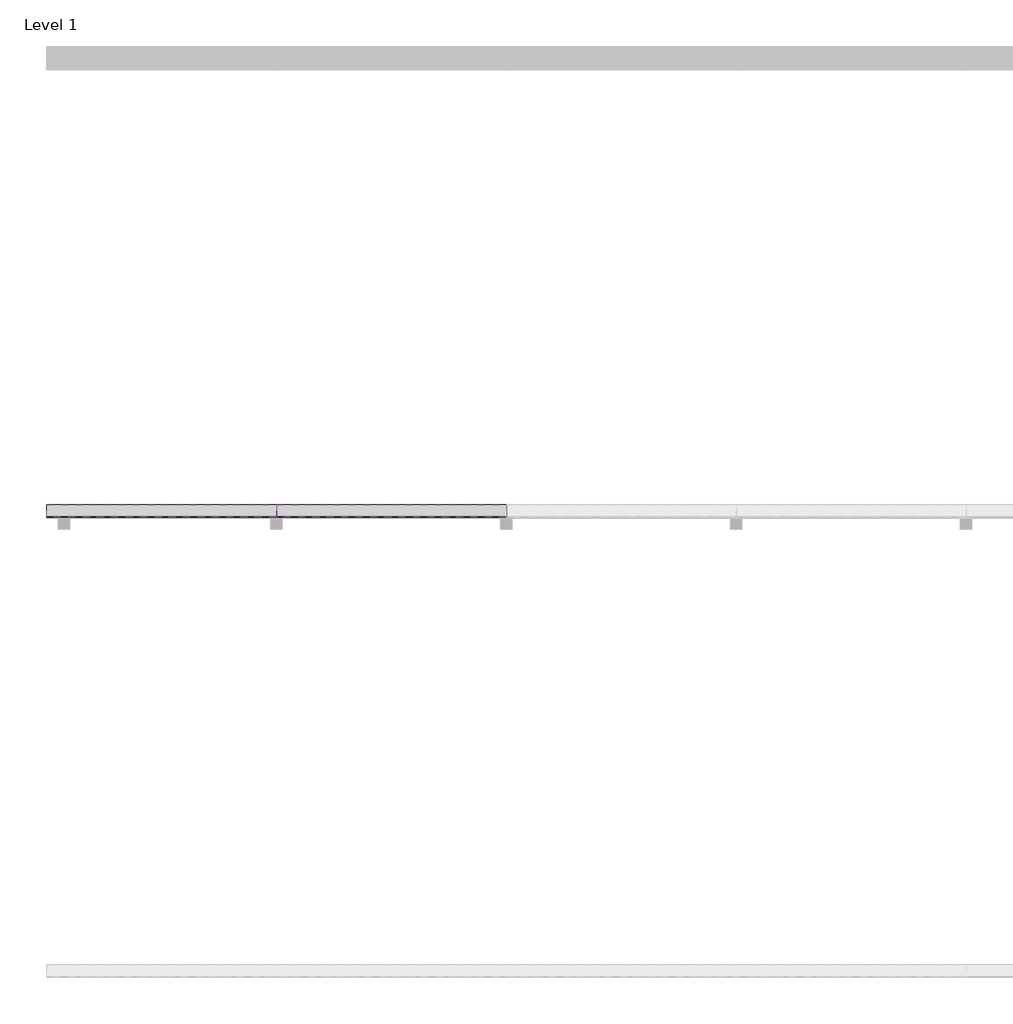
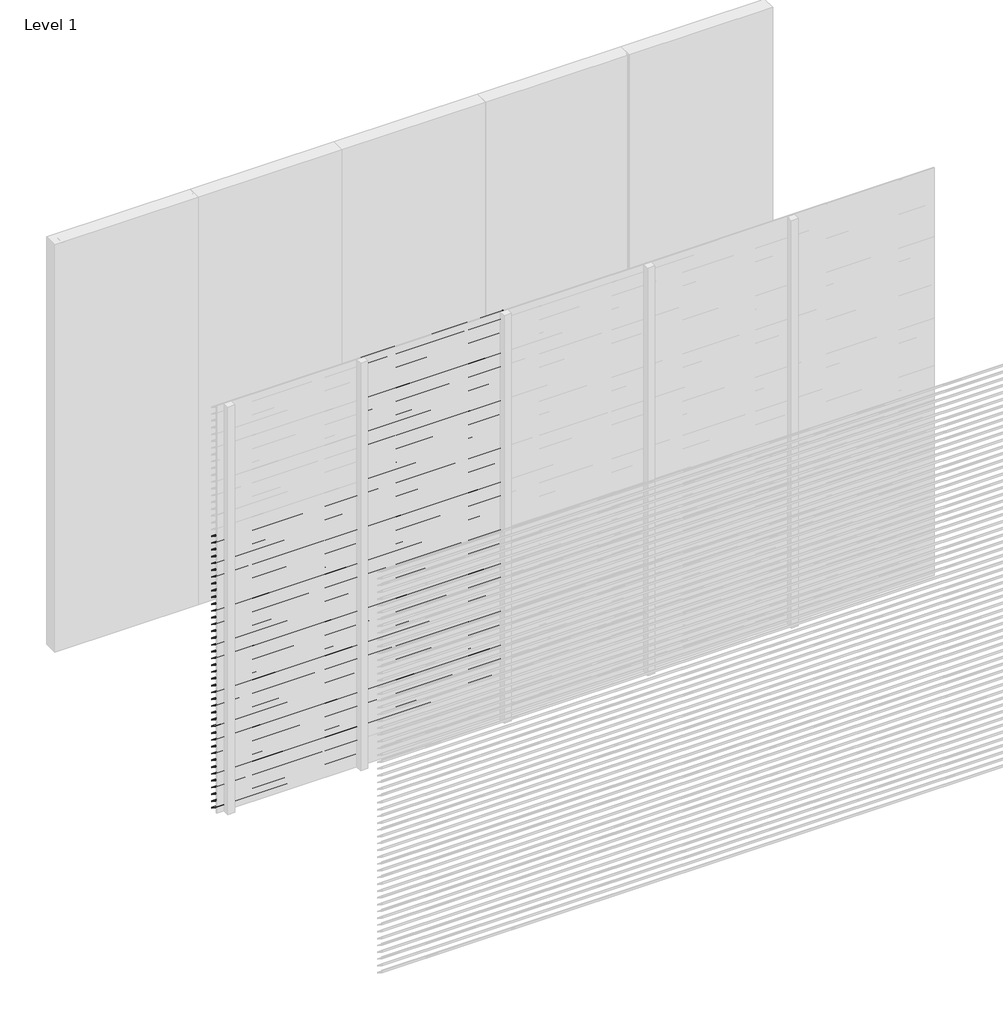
# One storey, part 7 of 18: 97 proxies.
"""IFC4 building model written with IfcOpenShell, lengths in millimetres."""

from ifc_helpers import new_model, si_unit, frame, origin, place, context, project, spatial, polyline, outline, extrude, element, save

model = new_model("IFC4")

# Units and contexts
model_context = context("Model", 3, world=origin())
ifc_project = project(units=[si_unit("LENGTHUNIT", "METRE", prefix="MILLI")], contexts=[model_context])

# Site, building, storey
site = spatial("IfcSite", under=ifc_project)
building = spatial("IfcBuilding", under=site)
storey = spatial("IfcBuildingStorey", under=building, Name="Level 1", Elevation=0.0)

# Proxies
placement = place(None, origin())
element("IfcBuildingElementProxy", 1, Name="Wall Sweeps", at=placement, inside=storey, context=model_context, shape_type="SweptSolid", body=[
    extrude(outline(polyline([(-11995.0, 2050.0), (-11995.0, 2041.0744429), (-11943.0, 2006.0), (-11943.0, 2000.0), (-11997.0, 2036.4234599), (-11997.0, 2050.0), (-11995.0, 2050.0)])), frame((0.0, 0.0, 0.0), z_axis=(1.0, 0.0, 0.0), x_axis=(0.0, 1.0, 0.0)), (0.0, 0.0, 1.0), 1000.0),
])
element("IfcBuildingElementProxy", 2, Name="Wall Sweeps", at=placement, inside=storey, context=model_context, shape_type="SweptSolid", body=[
    extrude(outline(polyline([(-11995.0, 2000.0), (-11995.0, 1991.0744429), (-11943.0, 1956.0), (-11943.0, 1950.0), (-11997.0, 1986.4234599), (-11997.0, 2000.0), (-11995.0, 2000.0)])), frame((0.0, 0.0, 0.0), z_axis=(1.0, 0.0, 0.0), x_axis=(0.0, 1.0, 0.0)), (0.0, 0.0, 1.0), 1000.0),
])
element("IfcBuildingElementProxy", 3, Name="Wall Sweeps", at=placement, inside=storey, context=model_context, shape_type="SweptSolid", body=[
    extrude(outline(polyline([(-11995.0, 1950.0), (-11995.0, 1941.0744429), (-11943.0, 1906.0), (-11943.0, 1900.0), (-11997.0, 1936.4234599), (-11997.0, 1950.0), (-11995.0, 1950.0)])), frame((0.0, 0.0, 0.0), z_axis=(1.0, 0.0, 0.0), x_axis=(0.0, 1.0, 0.0)), (0.0, 0.0, 1.0), 1000.0),
])
element("IfcBuildingElementProxy", 4, Name="Wall Sweeps", at=placement, inside=storey, context=model_context, shape_type="SweptSolid", body=[
    extrude(outline(polyline([(-11995.0, 1900.0), (-11995.0, 1891.0744429), (-11943.0, 1856.0), (-11943.0, 1850.0), (-11997.0, 1886.4234599), (-11997.0, 1900.0), (-11995.0, 1900.0)])), frame((0.0, 0.0, 0.0), z_axis=(1.0, 0.0, 0.0), x_axis=(0.0, 1.0, 0.0)), (0.0, 0.0, 1.0), 1000.0),
])
element("IfcBuildingElementProxy", 5, Name="Wall Sweeps", at=placement, inside=storey, context=model_context, shape_type="SweptSolid", body=[
    extrude(outline(polyline([(-11995.0, 1850.0), (-11995.0, 1841.0744429), (-11943.0, 1806.0), (-11943.0, 1800.0), (-11997.0, 1836.4234599), (-11997.0, 1850.0), (-11995.0, 1850.0)])), frame((0.0, 0.0, 0.0), z_axis=(1.0, 0.0, 0.0), x_axis=(0.0, 1.0, 0.0)), (0.0, 0.0, 1.0), 1000.0),
])
element("IfcBuildingElementProxy", 6, Name="Wall Sweeps", at=placement, inside=storey, context=model_context, shape_type="SweptSolid", body=[
    extrude(outline(polyline([(-11995.0, 1800.0), (-11995.0, 1791.0744429), (-11943.0, 1756.0), (-11943.0, 1750.0), (-11997.0, 1786.4234599), (-11997.0, 1800.0), (-11995.0, 1800.0)])), frame((0.0, 0.0, 0.0), z_axis=(1.0, 0.0, 0.0), x_axis=(0.0, 1.0, 0.0)), (0.0, 0.0, 1.0), 1000.0),
])
element("IfcBuildingElementProxy", 7, Name="Wall Sweeps", at=placement, inside=storey, context=model_context, shape_type="SweptSolid", body=[
    extrude(outline(polyline([(-11995.0, 1750.0), (-11995.0, 1741.0744429), (-11943.0, 1706.0), (-11943.0, 1700.0), (-11997.0, 1736.4234599), (-11997.0, 1750.0), (-11995.0, 1750.0)])), frame((0.0, 0.0, 0.0), z_axis=(1.0, 0.0, 0.0), x_axis=(0.0, 1.0, 0.0)), (0.0, 0.0, 1.0), 1000.0),
])
element("IfcBuildingElementProxy", 8, Name="Wall Sweeps", at=placement, inside=storey, context=model_context, shape_type="SweptSolid", body=[
    extrude(outline(polyline([(-11995.0, 1700.0), (-11995.0, 1691.0744429), (-11943.0, 1656.0), (-11943.0, 1650.0), (-11997.0, 1686.4234599), (-11997.0, 1700.0), (-11995.0, 1700.0)])), frame((0.0, 0.0, 0.0), z_axis=(1.0, 0.0, 0.0), x_axis=(0.0, 1.0, 0.0)), (0.0, 0.0, 1.0), 1000.0),
])
element("IfcBuildingElementProxy", 9, Name="Wall Sweeps", at=placement, inside=storey, context=model_context, shape_type="SweptSolid", body=[
    extrude(outline(polyline([(-11995.0, 1650.0), (-11995.0, 1641.0744429), (-11943.0, 1606.0), (-11943.0, 1600.0), (-11997.0, 1636.4234599), (-11997.0, 1650.0), (-11995.0, 1650.0)])), frame((0.0, 0.0, 0.0), z_axis=(1.0, 0.0, 0.0), x_axis=(0.0, 1.0, 0.0)), (0.0, 0.0, 1.0), 1000.0),
])
element("IfcBuildingElementProxy", 10, Name="Wall Sweeps", at=placement, inside=storey, context=model_context, shape_type="SweptSolid", body=[
    extrude(outline(polyline([(-11995.0, 1600.0), (-11995.0, 1591.0744429), (-11943.0, 1556.0), (-11943.0, 1550.0), (-11997.0, 1586.4234599), (-11997.0, 1600.0), (-11995.0, 1600.0)])), frame((0.0, 0.0, 0.0), z_axis=(1.0, 0.0, 0.0), x_axis=(0.0, 1.0, 0.0)), (0.0, 0.0, 1.0), 1000.0),
])
element("IfcBuildingElementProxy", 11, Name="Wall Sweeps", at=placement, inside=storey, context=model_context, shape_type="SweptSolid", body=[
    extrude(outline(polyline([(-11995.0, 1550.0), (-11995.0, 1541.0744429), (-11943.0, 1506.0), (-11943.0, 1500.0), (-11997.0, 1536.4234599), (-11997.0, 1550.0), (-11995.0, 1550.0)])), frame((0.0, 0.0, 0.0), z_axis=(1.0, 0.0, 0.0), x_axis=(0.0, 1.0, 0.0)), (0.0, 0.0, 1.0), 1000.0),
])
element("IfcBuildingElementProxy", 12, Name="Wall Sweeps", at=placement, inside=storey, context=model_context, shape_type="SweptSolid", body=[
    extrude(outline(polyline([(-11995.0, 1500.0), (-11995.0, 1491.0744429), (-11943.0, 1456.0), (-11943.0, 1450.0), (-11997.0, 1486.4234599), (-11997.0, 1500.0), (-11995.0, 1500.0)])), frame((0.0, 0.0, 0.0), z_axis=(1.0, 0.0, 0.0), x_axis=(0.0, 1.0, 0.0)), (0.0, 0.0, 1.0), 1000.0),
])
element("IfcBuildingElementProxy", 13, Name="Wall Sweeps", at=placement, inside=storey, context=model_context, shape_type="SweptSolid", body=[
    extrude(outline(polyline([(-11995.0, 1450.0), (-11995.0, 1441.0744429), (-11943.0, 1406.0), (-11943.0, 1400.0), (-11997.0, 1436.4234599), (-11997.0, 1450.0), (-11995.0, 1450.0)])), frame((0.0, 0.0, 0.0), z_axis=(1.0, 0.0, 0.0), x_axis=(0.0, 1.0, 0.0)), (0.0, 0.0, 1.0), 1000.0),
])
element("IfcBuildingElementProxy", 14, Name="Wall Sweeps", at=placement, inside=storey, context=model_context, shape_type="SweptSolid", body=[
    extrude(outline(polyline([(-11995.0, 1400.0), (-11995.0, 1391.0744429), (-11943.0, 1356.0), (-11943.0, 1350.0), (-11997.0, 1386.4234599), (-11997.0, 1400.0), (-11995.0, 1400.0)])), frame((0.0, 0.0, 0.0), z_axis=(1.0, 0.0, 0.0), x_axis=(0.0, 1.0, 0.0)), (0.0, 0.0, 1.0), 1000.0),
])
element("IfcBuildingElementProxy", 15, Name="Wall Sweeps", at=placement, inside=storey, context=model_context, shape_type="SweptSolid", body=[
    extrude(outline(polyline([(-11995.0, 1350.0), (-11995.0, 1341.0744429), (-11943.0, 1306.0), (-11943.0, 1300.0), (-11997.0, 1336.4234599), (-11997.0, 1350.0), (-11995.0, 1350.0)])), frame((0.0, 0.0, 0.0), z_axis=(1.0, 0.0, 0.0), x_axis=(0.0, 1.0, 0.0)), (0.0, 0.0, 1.0), 1000.0),
])
element("IfcBuildingElementProxy", 16, Name="Wall Sweeps", at=placement, inside=storey, context=model_context, shape_type="SweptSolid", body=[
    extrude(outline(polyline([(-11995.0, 1300.0), (-11995.0, 1291.0744429), (-11943.0, 1256.0), (-11943.0, 1250.0), (-11997.0, 1286.4234599), (-11997.0, 1300.0), (-11995.0, 1300.0)])), frame((0.0, 0.0, 0.0), z_axis=(1.0, 0.0, 0.0), x_axis=(0.0, 1.0, 0.0)), (0.0, 0.0, 1.0), 1000.0),
])
element("IfcBuildingElementProxy", 17, Name="Wall Sweeps", at=placement, inside=storey, context=model_context, shape_type="SweptSolid", body=[
    extrude(outline(polyline([(-11995.0, 1250.0), (-11995.0, 1241.0744429), (-11943.0, 1206.0), (-11943.0, 1200.0), (-11997.0, 1236.4234599), (-11997.0, 1250.0), (-11995.0, 1250.0)])), frame((0.0, 0.0, 0.0), z_axis=(1.0, 0.0, 0.0), x_axis=(0.0, 1.0, 0.0)), (0.0, 0.0, 1.0), 1000.0),
])
element("IfcBuildingElementProxy", 18, Name="Wall Sweeps", at=placement, inside=storey, context=model_context, shape_type="SweptSolid", body=[
    extrude(outline(polyline([(-11995.0, 1200.0), (-11995.0, 1191.0744429), (-11943.0, 1156.0), (-11943.0, 1150.0), (-11997.0, 1186.4234599), (-11997.0, 1200.0), (-11995.0, 1200.0)])), frame((0.0, 0.0, 0.0), z_axis=(1.0, 0.0, 0.0), x_axis=(0.0, 1.0, 0.0)), (0.0, 0.0, 1.0), 1000.0),
])
element("IfcBuildingElementProxy", 19, Name="Wall Sweeps", at=placement, inside=storey, context=model_context, shape_type="SweptSolid", body=[
    extrude(outline(polyline([(-11995.0, 1150.0), (-11995.0, 1141.0744429), (-11943.0, 1106.0), (-11943.0, 1100.0), (-11997.0, 1136.4234599), (-11997.0, 1150.0), (-11995.0, 1150.0)])), frame((0.0, 0.0, 0.0), z_axis=(1.0, 0.0, 0.0), x_axis=(0.0, 1.0, 0.0)), (0.0, 0.0, 1.0), 1000.0),
])
element("IfcBuildingElementProxy", 20, Name="Wall Sweeps", at=placement, inside=storey, context=model_context, shape_type="SweptSolid", body=[
    extrude(outline(polyline([(-11995.0, 1100.0), (-11995.0, 1091.0744429), (-11943.0, 1056.0), (-11943.0, 1050.0), (-11997.0, 1086.4234599), (-11997.0, 1100.0), (-11995.0, 1100.0)])), frame((0.0, 0.0, 0.0), z_axis=(1.0, 0.0, 0.0), x_axis=(0.0, 1.0, 0.0)), (0.0, 0.0, 1.0), 1000.0),
])
element("IfcBuildingElementProxy", 21, Name="Wall Sweeps", at=placement, inside=storey, context=model_context, shape_type="SweptSolid", body=[
    extrude(outline(polyline([(-11995.0, 1050.0), (-11995.0, 1041.0744429), (-11943.0, 1006.0), (-11943.0, 1000.0), (-11997.0, 1036.4234599), (-11997.0, 1050.0), (-11995.0, 1050.0)])), frame((0.0, 0.0, 0.0), z_axis=(1.0, 0.0, 0.0), x_axis=(0.0, 1.0, 0.0)), (0.0, 0.0, 1.0), 1000.0),
])
element("IfcBuildingElementProxy", 22, Name="Wall Sweeps", at=placement, inside=storey, context=model_context, shape_type="SweptSolid", body=[
    extrude(outline(polyline([(-11995.0, 1000.0), (-11995.0, 991.0744429), (-11943.0, 956.0), (-11943.0, 950.0), (-11997.0, 986.4234599), (-11997.0, 1000.0), (-11995.0, 1000.0)])), frame((0.0, 0.0, 0.0), z_axis=(1.0, 0.0, 0.0), x_axis=(0.0, 1.0, 0.0)), (0.0, 0.0, 1.0), 1000.0),
])
element("IfcBuildingElementProxy", 23, Name="Wall Sweeps", at=placement, inside=storey, context=model_context, shape_type="SweptSolid", body=[
    extrude(outline(polyline([(-11995.0, 950.0), (-11995.0, 941.0744429), (-11943.0, 906.0), (-11943.0, 900.0), (-11997.0, 936.4234599), (-11997.0, 950.0), (-11995.0, 950.0)])), frame((0.0, 0.0, 0.0), z_axis=(1.0, 0.0, 0.0), x_axis=(0.0, 1.0, 0.0)), (0.0, 0.0, 1.0), 1000.0),
])
element("IfcBuildingElementProxy", 24, Name="Wall Sweeps", at=placement, inside=storey, context=model_context, shape_type="SweptSolid", body=[
    extrude(outline(polyline([(-11995.0, 900.0), (-11995.0, 891.0744429), (-11943.0, 856.0), (-11943.0, 850.0), (-11997.0, 886.4234599), (-11997.0, 900.0), (-11995.0, 900.0)])), frame((0.0, 0.0, 0.0), z_axis=(1.0, 0.0, 0.0), x_axis=(0.0, 1.0, 0.0)), (0.0, 0.0, 1.0), 1000.0),
])
element("IfcBuildingElementProxy", 25, Name="Wall Sweeps", at=placement, inside=storey, context=model_context, shape_type="SweptSolid", body=[
    extrude(outline(polyline([(-11995.0, 850.0), (-11995.0, 841.0744429), (-11943.0, 806.0), (-11943.0, 800.0), (-11997.0, 836.4234599), (-11997.0, 850.0), (-11995.0, 850.0)])), frame((0.0, 0.0, 0.0), z_axis=(1.0, 0.0, 0.0), x_axis=(0.0, 1.0, 0.0)), (0.0, 0.0, 1.0), 1000.0),
])
element("IfcBuildingElementProxy", 26, Name="Wall Sweeps", at=placement, inside=storey, context=model_context, shape_type="SweptSolid", body=[
    extrude(outline(polyline([(-11995.0, 800.0), (-11995.0, 791.0744429), (-11943.0, 756.0), (-11943.0, 750.0), (-11997.0, 786.4234599), (-11997.0, 800.0), (-11995.0, 800.0)])), frame((0.0, 0.0, 0.0), z_axis=(1.0, 0.0, 0.0), x_axis=(0.0, 1.0, 0.0)), (0.0, 0.0, 1.0), 1000.0),
])
element("IfcBuildingElementProxy", 27, Name="Wall Sweeps", at=placement, inside=storey, context=model_context, shape_type="SweptSolid", body=[
    extrude(outline(polyline([(-11995.0, 750.0), (-11995.0, 741.0744429), (-11943.0, 706.0), (-11943.0, 700.0), (-11997.0, 736.4234599), (-11997.0, 750.0), (-11995.0, 750.0)])), frame((0.0, 0.0, 0.0), z_axis=(1.0, 0.0, 0.0), x_axis=(0.0, 1.0, 0.0)), (0.0, 0.0, 1.0), 1000.0),
])
element("IfcBuildingElementProxy", 28, Name="Wall Sweeps", at=placement, inside=storey, context=model_context, shape_type="SweptSolid", body=[
    extrude(outline(polyline([(-11995.0, 700.0), (-11995.0, 691.0744429), (-11943.0, 656.0), (-11943.0, 650.0), (-11997.0, 686.4234599), (-11997.0, 700.0), (-11995.0, 700.0)])), frame((0.0, 0.0, 0.0), z_axis=(1.0, 0.0, 0.0), x_axis=(0.0, 1.0, 0.0)), (0.0, 0.0, 1.0), 1000.0),
])
element("IfcBuildingElementProxy", 29, Name="Wall Sweeps", at=placement, inside=storey, context=model_context, shape_type="SweptSolid", body=[
    extrude(outline(polyline([(-11995.0, 650.0), (-11995.0, 641.0744429), (-11943.0, 606.0), (-11943.0, 600.0), (-11997.0, 636.4234599), (-11997.0, 650.0), (-11995.0, 650.0)])), frame((0.0, 0.0, 0.0), z_axis=(1.0, 0.0, 0.0), x_axis=(0.0, 1.0, 0.0)), (0.0, 0.0, 1.0), 1000.0),
])
element("IfcBuildingElementProxy", 30, Name="Wall Sweeps", at=placement, inside=storey, context=model_context, shape_type="SweptSolid", body=[
    extrude(outline(polyline([(-11995.0, 600.0), (-11995.0, 591.0744429), (-11943.0, 556.0), (-11943.0, 550.0), (-11997.0, 586.4234599), (-11997.0, 600.0), (-11995.0, 600.0)])), frame((0.0, 0.0, 0.0), z_axis=(1.0, 0.0, 0.0), x_axis=(0.0, 1.0, 0.0)), (0.0, 0.0, 1.0), 1000.0),
])
element("IfcBuildingElementProxy", 31, Name="Wall Sweeps", at=placement, inside=storey, context=model_context, shape_type="SweptSolid", body=[
    extrude(outline(polyline([(-11995.0, 550.0), (-11995.0, 541.0744429), (-11943.0, 506.0), (-11943.0, 500.0), (-11997.0, 536.4234599), (-11997.0, 550.0), (-11995.0, 550.0)])), frame((0.0, 0.0, 0.0), z_axis=(1.0, 0.0, 0.0), x_axis=(0.0, 1.0, 0.0)), (0.0, 0.0, 1.0), 1000.0),
])
element("IfcBuildingElementProxy", 32, Name="Wall Sweeps", at=placement, inside=storey, context=model_context, shape_type="SweptSolid", body=[
    extrude(outline(polyline([(-11995.0, 500.0), (-11995.0, 491.0744429), (-11943.0, 456.0), (-11943.0, 450.0), (-11997.0, 486.4234599), (-11997.0, 500.0), (-11995.0, 500.0)])), frame((0.0, 0.0, 0.0), z_axis=(1.0, 0.0, 0.0), x_axis=(0.0, 1.0, 0.0)), (0.0, 0.0, 1.0), 1000.0),
])
element("IfcBuildingElementProxy", 33, Name="Wall Sweeps", at=placement, inside=storey, context=model_context, shape_type="SweptSolid", body=[
    extrude(outline(polyline([(-11995.0, 450.0), (-11995.0, 441.0744429), (-11943.0, 406.0), (-11943.0, 400.0), (-11997.0, 436.4234599), (-11997.0, 450.0), (-11995.0, 450.0)])), frame((0.0, 0.0, 0.0), z_axis=(1.0, 0.0, 0.0), x_axis=(0.0, 1.0, 0.0)), (0.0, 0.0, 1.0), 1000.0),
])
element("IfcBuildingElementProxy", 34, Name="Wall Sweeps", at=placement, inside=storey, context=model_context, shape_type="SweptSolid", body=[
    extrude(outline(polyline([(-11995.0, 400.0), (-11995.0, 391.0744429), (-11943.0, 356.0), (-11943.0, 350.0), (-11997.0, 386.4234599), (-11997.0, 400.0), (-11995.0, 400.0)])), frame((0.0, 0.0, 0.0), z_axis=(1.0, 0.0, 0.0), x_axis=(0.0, 1.0, 0.0)), (0.0, 0.0, 1.0), 1000.0),
])
element("IfcBuildingElementProxy", 35, Name="Wall Sweeps", at=placement, inside=storey, context=model_context, shape_type="SweptSolid", body=[
    extrude(outline(polyline([(-11995.0, 350.0), (-11995.0, 341.0744429), (-11943.0, 306.0), (-11943.0, 300.0), (-11997.0, 336.4234599), (-11997.0, 350.0), (-11995.0, 350.0)])), frame((0.0, 0.0, 0.0), z_axis=(1.0, 0.0, 0.0), x_axis=(0.0, 1.0, 0.0)), (0.0, 0.0, 1.0), 1000.0),
])
element("IfcBuildingElementProxy", 36, Name="Wall Sweeps", at=placement, inside=storey, context=model_context, shape_type="SweptSolid", body=[
    extrude(outline(polyline([(-11995.0, 300.0), (-11995.0, 291.0744429), (-11943.0, 256.0), (-11943.0, 250.0), (-11997.0, 286.4234599), (-11997.0, 300.0), (-11995.0, 300.0)])), frame((0.0, 0.0, 0.0), z_axis=(1.0, 0.0, 0.0), x_axis=(0.0, 1.0, 0.0)), (0.0, 0.0, 1.0), 1000.0),
])
element("IfcBuildingElementProxy", 37, Name="Wall Sweeps", at=placement, inside=storey, context=model_context, shape_type="SweptSolid", body=[
    extrude(outline(polyline([(-11995.0, 250.0), (-11995.0, 241.0744429), (-11943.0, 206.0), (-11943.0, 200.0), (-11997.0, 236.4234599), (-11997.0, 250.0), (-11995.0, 250.0)])), frame((0.0, 0.0, 0.0), z_axis=(1.0, 0.0, 0.0), x_axis=(0.0, 1.0, 0.0)), (0.0, 0.0, 1.0), 1000.0),
])
element("IfcBuildingElementProxy", 38, Name="Wall Sweeps", at=placement, inside=storey, context=model_context, shape_type="SweptSolid", body=[
    extrude(outline(polyline([(-11995.0, 200.0), (-11995.0, 191.0744429), (-11943.0, 156.0), (-11943.0, 150.0), (-11997.0, 186.4234599), (-11997.0, 200.0), (-11995.0, 200.0)])), frame((0.0, 0.0, 0.0), z_axis=(1.0, 0.0, 0.0), x_axis=(0.0, 1.0, 0.0)), (0.0, 0.0, 1.0), 1000.0),
])
element("IfcBuildingElementProxy", 39, Name="Wall Sweeps", at=placement, inside=storey, context=model_context, shape_type="SweptSolid", body=[
    extrude(outline(polyline([(-11995.0, 150.0), (-11995.0, 141.0744429), (-11943.0, 106.0), (-11943.0, 100.0), (-11997.0, 136.4234599), (-11997.0, 150.0), (-11995.0, 150.0)])), frame((0.0, 0.0, 0.0), z_axis=(1.0, 0.0, 0.0), x_axis=(0.0, 1.0, 0.0)), (0.0, 0.0, 1.0), 1000.0),
])
element("IfcBuildingElementProxy", 40, Name="Wall Sweeps", at=placement, inside=storey, context=model_context, shape_type="SweptSolid", body=[
    extrude(outline(polyline([(-11995.0, 100.0), (-11995.0, 91.0744429), (-11943.0, 56.0), (-11943.0, 50.0), (-11997.0, 86.4234599), (-11997.0, 100.0), (-11995.0, 100.0)])), frame((0.0, 0.0, 0.0), z_axis=(1.0, 0.0, 0.0), x_axis=(0.0, 1.0, 0.0)), (0.0, 0.0, 1.0), 1000.0),
])
element("IfcBuildingElementProxy", 41, Name="Wall Sweeps", at=placement, inside=storey, context=model_context, shape_type="SweptSolid", body=[
    extrude(outline(polyline([(-11995.0, 50.0), (-11995.0, 41.0744429), (-11943.0, 6.0), (-11943.0, 0.0), (-11997.0, 36.4234599), (-11997.0, 50.0), (-11995.0, 50.0)])), frame((0.0, 0.0, 0.0), z_axis=(1.0, 0.0, 0.0), x_axis=(0.0, 1.0, 0.0)), (0.0, 0.0, 1.0), 1000.0),
])
element("IfcBuildingElementProxy", 42, Name="Wall Sweeps", at=placement, inside=storey, context=model_context, shape_type="SweptSolid", body=[
    extrude(outline(polyline([(-11995.0, 3000.0), (-11995.0, 2991.0744429), (-11943.0, 2956.0), (-11943.0, 2950.0), (-11997.0, 2986.4234599), (-11997.0, 3000.0), (-11995.0, 3000.0)])), frame((1000.0, 0.0, 0.0), z_axis=(1.0, 0.0, 0.0), x_axis=(0.0, 1.0, 0.0)), (0.0, 0.0, 1.0), 1000.0),
])
element("IfcBuildingElementProxy", 43, Name="Wall Sweeps", at=placement, inside=storey, context=model_context, shape_type="SweptSolid", body=[
    extrude(outline(polyline([(-11995.0, 2950.0), (-11995.0, 2941.0744429), (-11943.0, 2906.0), (-11943.0, 2900.0), (-11997.0, 2936.4234599), (-11997.0, 2950.0), (-11995.0, 2950.0)])), frame((1000.0, 0.0, 0.0), z_axis=(1.0, 0.0, 0.0), x_axis=(0.0, 1.0, 0.0)), (0.0, 0.0, 1.0), 1000.0),
])
element("IfcBuildingElementProxy", 44, Name="Wall Sweeps", at=placement, inside=storey, context=model_context, shape_type="SweptSolid", body=[
    extrude(outline(polyline([(-11995.0, 2900.0), (-11995.0, 2891.0744429), (-11943.0, 2856.0), (-11943.0, 2850.0), (-11997.0, 2886.4234599), (-11997.0, 2900.0), (-11995.0, 2900.0)])), frame((1000.0, 0.0, 0.0), z_axis=(1.0, 0.0, 0.0), x_axis=(0.0, 1.0, 0.0)), (0.0, 0.0, 1.0), 1000.0),
])
element("IfcBuildingElementProxy", 45, Name="Wall Sweeps", at=placement, inside=storey, context=model_context, shape_type="SweptSolid", body=[
    extrude(outline(polyline([(-11995.0, 2850.0), (-11995.0, 2841.0744429), (-11943.0, 2806.0), (-11943.0, 2800.0), (-11997.0, 2836.4234599), (-11997.0, 2850.0), (-11995.0, 2850.0)])), frame((1000.0, 0.0, 0.0), z_axis=(1.0, 0.0, 0.0), x_axis=(0.0, 1.0, 0.0)), (0.0, 0.0, 1.0), 1000.0),
])
element("IfcBuildingElementProxy", 46, Name="Wall Sweeps", at=placement, inside=storey, context=model_context, shape_type="SweptSolid", body=[
    extrude(outline(polyline([(-11995.0, 2800.0), (-11995.0, 2791.0744429), (-11943.0, 2756.0), (-11943.0, 2750.0), (-11997.0, 2786.4234599), (-11997.0, 2800.0), (-11995.0, 2800.0)])), frame((1000.0, 0.0, 0.0), z_axis=(1.0, 0.0, 0.0), x_axis=(0.0, 1.0, 0.0)), (0.0, 0.0, 1.0), 1000.0),
])
element("IfcBuildingElementProxy", 47, Name="Wall Sweeps", at=placement, inside=storey, context=model_context, shape_type="SweptSolid", body=[
    extrude(outline(polyline([(-11995.0, 2750.0), (-11995.0, 2741.0744429), (-11943.0, 2706.0), (-11943.0, 2700.0), (-11997.0, 2736.4234599), (-11997.0, 2750.0), (-11995.0, 2750.0)])), frame((1000.0, 0.0, 0.0), z_axis=(1.0, 0.0, 0.0), x_axis=(0.0, 1.0, 0.0)), (0.0, 0.0, 1.0), 1000.0),
])
element("IfcBuildingElementProxy", 48, Name="Wall Sweeps", at=placement, inside=storey, context=model_context, shape_type="SweptSolid", body=[
    extrude(outline(polyline([(-11995.0, 2700.0), (-11995.0, 2691.0744429), (-11943.0, 2656.0), (-11943.0, 2650.0), (-11997.0, 2686.4234599), (-11997.0, 2700.0), (-11995.0, 2700.0)])), frame((1000.0, 0.0, 0.0), z_axis=(1.0, 0.0, 0.0), x_axis=(0.0, 1.0, 0.0)), (0.0, 0.0, 1.0), 1000.0),
])
element("IfcBuildingElementProxy", 49, Name="Wall Sweeps", at=placement, inside=storey, context=model_context, shape_type="SweptSolid", body=[
    extrude(outline(polyline([(-11995.0, 2650.0), (-11995.0, 2641.0744429), (-11943.0, 2606.0), (-11943.0, 2600.0), (-11997.0, 2636.4234599), (-11997.0, 2650.0), (-11995.0, 2650.0)])), frame((1000.0, 0.0, 0.0), z_axis=(1.0, 0.0, 0.0), x_axis=(0.0, 1.0, 0.0)), (0.0, 0.0, 1.0), 1000.0),
])
element("IfcBuildingElementProxy", 50, Name="Wall Sweeps", at=placement, inside=storey, context=model_context, shape_type="SweptSolid", body=[
    extrude(outline(polyline([(-11995.0, 2600.0), (-11995.0, 2591.0744429), (-11943.0, 2556.0), (-11943.0, 2550.0), (-11997.0, 2586.4234599), (-11997.0, 2600.0), (-11995.0, 2600.0)])), frame((1000.0, 0.0, 0.0), z_axis=(1.0, 0.0, 0.0), x_axis=(0.0, 1.0, 0.0)), (0.0, 0.0, 1.0), 1000.0),
])
element("IfcBuildingElementProxy", 51, Name="Wall Sweeps", at=placement, inside=storey, context=model_context, shape_type="SweptSolid", body=[
    extrude(outline(polyline([(-11995.0, 2550.0), (-11995.0, 2541.0744429), (-11943.0, 2506.0), (-11943.0, 2500.0), (-11997.0, 2536.4234599), (-11997.0, 2550.0), (-11995.0, 2550.0)])), frame((1000.0, 0.0, 0.0), z_axis=(1.0, 0.0, 0.0), x_axis=(0.0, 1.0, 0.0)), (0.0, 0.0, 1.0), 1000.0),
])
element("IfcBuildingElementProxy", 52, Name="Wall Sweeps", at=placement, inside=storey, context=model_context, shape_type="SweptSolid", body=[
    extrude(outline(polyline([(-11995.0, 2500.0), (-11995.0, 2491.0744429), (-11943.0, 2456.0), (-11943.0, 2450.0), (-11997.0, 2486.4234599), (-11997.0, 2500.0), (-11995.0, 2500.0)])), frame((1000.0, 0.0, 0.0), z_axis=(1.0, 0.0, 0.0), x_axis=(0.0, 1.0, 0.0)), (0.0, 0.0, 1.0), 1000.0),
])
element("IfcBuildingElementProxy", 53, Name="Wall Sweeps", at=placement, inside=storey, context=model_context, shape_type="SweptSolid", body=[
    extrude(outline(polyline([(-11995.0, 2450.0), (-11995.0, 2441.0744429), (-11943.0, 2406.0), (-11943.0, 2400.0), (-11997.0, 2436.4234599), (-11997.0, 2450.0), (-11995.0, 2450.0)])), frame((1000.0, 0.0, 0.0), z_axis=(1.0, 0.0, 0.0), x_axis=(0.0, 1.0, 0.0)), (0.0, 0.0, 1.0), 1000.0),
])
element("IfcBuildingElementProxy", 54, Name="Wall Sweeps", at=placement, inside=storey, context=model_context, shape_type="SweptSolid", body=[
    extrude(outline(polyline([(-11995.0, 2400.0), (-11995.0, 2391.0744429), (-11943.0, 2356.0), (-11943.0, 2350.0), (-11997.0, 2386.4234599), (-11997.0, 2400.0), (-11995.0, 2400.0)])), frame((1000.0, 0.0, 0.0), z_axis=(1.0, 0.0, 0.0), x_axis=(0.0, 1.0, 0.0)), (0.0, 0.0, 1.0), 1000.0),
])
element("IfcBuildingElementProxy", 55, Name="Wall Sweeps", at=placement, inside=storey, context=model_context, shape_type="SweptSolid", body=[
    extrude(outline(polyline([(-11995.0, 2350.0), (-11995.0, 2341.0744429), (-11943.0, 2306.0), (-11943.0, 2300.0), (-11997.0, 2336.4234599), (-11997.0, 2350.0), (-11995.0, 2350.0)])), frame((1000.0, 0.0, 0.0), z_axis=(1.0, 0.0, 0.0), x_axis=(0.0, 1.0, 0.0)), (0.0, 0.0, 1.0), 1000.0),
])
element("IfcBuildingElementProxy", 56, Name="Wall Sweeps", at=placement, inside=storey, context=model_context, shape_type="SweptSolid", body=[
    extrude(outline(polyline([(-11995.0, 2300.0), (-11995.0, 2291.0744429), (-11943.0, 2256.0), (-11943.0, 2250.0), (-11997.0, 2286.4234599), (-11997.0, 2300.0), (-11995.0, 2300.0)])), frame((1000.0, 0.0, 0.0), z_axis=(1.0, 0.0, 0.0), x_axis=(0.0, 1.0, 0.0)), (0.0, 0.0, 1.0), 1000.0),
])
element("IfcBuildingElementProxy", 57, Name="Wall Sweeps", at=placement, inside=storey, context=model_context, shape_type="SweptSolid", body=[
    extrude(outline(polyline([(-11995.0, 2250.0), (-11995.0, 2241.0744429), (-11943.0, 2206.0), (-11943.0, 2200.0), (-11997.0, 2236.4234599), (-11997.0, 2250.0), (-11995.0, 2250.0)])), frame((1000.0, 0.0, 0.0), z_axis=(1.0, 0.0, 0.0), x_axis=(0.0, 1.0, 0.0)), (0.0, 0.0, 1.0), 1000.0),
])
element("IfcBuildingElementProxy", 58, Name="Wall Sweeps", at=placement, inside=storey, context=model_context, shape_type="SweptSolid", body=[
    extrude(outline(polyline([(-11995.0, 2200.0), (-11995.0, 2191.0744429), (-11943.0, 2156.0), (-11943.0, 2150.0), (-11997.0, 2186.4234599), (-11997.0, 2200.0), (-11995.0, 2200.0)])), frame((1000.0, 0.0, 0.0), z_axis=(1.0, 0.0, 0.0), x_axis=(0.0, 1.0, 0.0)), (0.0, 0.0, 1.0), 1000.0),
])
element("IfcBuildingElementProxy", 59, Name="Wall Sweeps", at=placement, inside=storey, context=model_context, shape_type="SweptSolid", body=[
    extrude(outline(polyline([(-11995.0, 2150.0), (-11995.0, 2141.0744429), (-11943.0, 2106.0), (-11943.0, 2100.0), (-11997.0, 2136.4234599), (-11997.0, 2150.0), (-11995.0, 2150.0)])), frame((1000.0, 0.0, 0.0), z_axis=(1.0, 0.0, 0.0), x_axis=(0.0, 1.0, 0.0)), (0.0, 0.0, 1.0), 1000.0),
])
element("IfcBuildingElementProxy", 60, Name="Wall Sweeps", at=placement, inside=storey, context=model_context, shape_type="SweptSolid", body=[
    extrude(outline(polyline([(-11995.0, 2100.0), (-11995.0, 2091.0744429), (-11943.0, 2056.0), (-11943.0, 2050.0), (-11997.0, 2086.4234599), (-11997.0, 2100.0), (-11995.0, 2100.0)])), frame((1000.0, 0.0, 0.0), z_axis=(1.0, 0.0, 0.0), x_axis=(0.0, 1.0, 0.0)), (0.0, 0.0, 1.0), 1000.0),
])
element("IfcBuildingElementProxy", 61, Name="Wall Sweeps", at=placement, inside=storey, context=model_context, shape_type="SweptSolid", body=[
    extrude(outline(polyline([(-11995.0, 2050.0), (-11995.0, 2041.0744429), (-11943.0, 2006.0), (-11943.0, 2000.0), (-11997.0, 2036.4234599), (-11997.0, 2050.0), (-11995.0, 2050.0)])), frame((1000.0, 0.0, 0.0), z_axis=(1.0, 0.0, 0.0), x_axis=(0.0, 1.0, 0.0)), (0.0, 0.0, 1.0), 1000.0),
])
element("IfcBuildingElementProxy", 62, Name="Wall Sweeps", at=placement, inside=storey, context=model_context, shape_type="SweptSolid", body=[
    extrude(outline(polyline([(-11995.0, 2000.0), (-11995.0, 1991.0744429), (-11943.0, 1956.0), (-11943.0, 1950.0), (-11997.0, 1986.4234599), (-11997.0, 2000.0), (-11995.0, 2000.0)])), frame((1000.0, 0.0, 0.0), z_axis=(1.0, 0.0, 0.0), x_axis=(0.0, 1.0, 0.0)), (0.0, 0.0, 1.0), 1000.0),
])
element("IfcBuildingElementProxy", 63, Name="Wall Sweeps", at=placement, inside=storey, context=model_context, shape_type="SweptSolid", body=[
    extrude(outline(polyline([(-11995.0, 1950.0), (-11995.0, 1941.0744429), (-11943.0, 1906.0), (-11943.0, 1900.0), (-11997.0, 1936.4234599), (-11997.0, 1950.0), (-11995.0, 1950.0)])), frame((1000.0, 0.0, 0.0), z_axis=(1.0, 0.0, 0.0), x_axis=(0.0, 1.0, 0.0)), (0.0, 0.0, 1.0), 1000.0),
])
element("IfcBuildingElementProxy", 64, Name="Wall Sweeps", at=placement, inside=storey, context=model_context, shape_type="SweptSolid", body=[
    extrude(outline(polyline([(-11995.0, 1900.0), (-11995.0, 1891.0744429), (-11943.0, 1856.0), (-11943.0, 1850.0), (-11997.0, 1886.4234599), (-11997.0, 1900.0), (-11995.0, 1900.0)])), frame((1000.0, 0.0, 0.0), z_axis=(1.0, 0.0, 0.0), x_axis=(0.0, 1.0, 0.0)), (0.0, 0.0, 1.0), 1000.0),
])
element("IfcBuildingElementProxy", 65, Name="Wall Sweeps", at=placement, inside=storey, context=model_context, shape_type="SweptSolid", body=[
    extrude(outline(polyline([(-11995.0, 1850.0), (-11995.0, 1841.0744429), (-11943.0, 1806.0), (-11943.0, 1800.0), (-11997.0, 1836.4234599), (-11997.0, 1850.0), (-11995.0, 1850.0)])), frame((1000.0, 0.0, 0.0), z_axis=(1.0, 0.0, 0.0), x_axis=(0.0, 1.0, 0.0)), (0.0, 0.0, 1.0), 1000.0),
])
element("IfcBuildingElementProxy", 66, Name="Wall Sweeps", at=placement, inside=storey, context=model_context, shape_type="SweptSolid", body=[
    extrude(outline(polyline([(-11995.0, 1800.0), (-11995.0, 1791.0744429), (-11943.0, 1756.0), (-11943.0, 1750.0), (-11997.0, 1786.4234599), (-11997.0, 1800.0), (-11995.0, 1800.0)])), frame((1000.0, 0.0, 0.0), z_axis=(1.0, 0.0, 0.0), x_axis=(0.0, 1.0, 0.0)), (0.0, 0.0, 1.0), 1000.0),
])
element("IfcBuildingElementProxy", 67, Name="Wall Sweeps", at=placement, inside=storey, context=model_context, shape_type="SweptSolid", body=[
    extrude(outline(polyline([(-11995.0, 1750.0), (-11995.0, 1741.0744429), (-11943.0, 1706.0), (-11943.0, 1700.0), (-11997.0, 1736.4234599), (-11997.0, 1750.0), (-11995.0, 1750.0)])), frame((1000.0, 0.0, 0.0), z_axis=(1.0, 0.0, 0.0), x_axis=(0.0, 1.0, 0.0)), (0.0, 0.0, 1.0), 1000.0),
])
element("IfcBuildingElementProxy", 68, Name="Wall Sweeps", at=placement, inside=storey, context=model_context, shape_type="SweptSolid", body=[
    extrude(outline(polyline([(-11995.0, 1700.0), (-11995.0, 1691.0744429), (-11943.0, 1656.0), (-11943.0, 1650.0), (-11997.0, 1686.4234599), (-11997.0, 1700.0), (-11995.0, 1700.0)])), frame((1000.0, 0.0, 0.0), z_axis=(1.0, 0.0, 0.0), x_axis=(0.0, 1.0, 0.0)), (0.0, 0.0, 1.0), 1000.0),
])
element("IfcBuildingElementProxy", 69, Name="Wall Sweeps", at=placement, inside=storey, context=model_context, shape_type="SweptSolid", body=[
    extrude(outline(polyline([(-11995.0, 1650.0), (-11995.0, 1641.0744429), (-11943.0, 1606.0), (-11943.0, 1600.0), (-11997.0, 1636.4234599), (-11997.0, 1650.0), (-11995.0, 1650.0)])), frame((1000.0, 0.0, 0.0), z_axis=(1.0, 0.0, 0.0), x_axis=(0.0, 1.0, 0.0)), (0.0, 0.0, 1.0), 1000.0),
])
element("IfcBuildingElementProxy", 70, Name="Wall Sweeps", at=placement, inside=storey, context=model_context, shape_type="SweptSolid", body=[
    extrude(outline(polyline([(-11995.0, 1600.0), (-11995.0, 1591.0744429), (-11943.0, 1556.0), (-11943.0, 1550.0), (-11997.0, 1586.4234599), (-11997.0, 1600.0), (-11995.0, 1600.0)])), frame((1000.0, 0.0, 0.0), z_axis=(1.0, 0.0, 0.0), x_axis=(0.0, 1.0, 0.0)), (0.0, 0.0, 1.0), 1000.0),
])
element("IfcBuildingElementProxy", 71, Name="Wall Sweeps", at=placement, inside=storey, context=model_context, shape_type="SweptSolid", body=[
    extrude(outline(polyline([(-11995.0, 1550.0), (-11995.0, 1541.0744429), (-11943.0, 1506.0), (-11943.0, 1500.0), (-11997.0, 1536.4234599), (-11997.0, 1550.0), (-11995.0, 1550.0)])), frame((1000.0, 0.0, 0.0), z_axis=(1.0, 0.0, 0.0), x_axis=(0.0, 1.0, 0.0)), (0.0, 0.0, 1.0), 1000.0),
])
element("IfcBuildingElementProxy", 72, Name="Wall Sweeps", at=placement, inside=storey, context=model_context, shape_type="SweptSolid", body=[
    extrude(outline(polyline([(-11995.0, 1500.0), (-11995.0, 1491.0744429), (-11943.0, 1456.0), (-11943.0, 1450.0), (-11997.0, 1486.4234599), (-11997.0, 1500.0), (-11995.0, 1500.0)])), frame((1000.0, 0.0, 0.0), z_axis=(1.0, 0.0, 0.0), x_axis=(0.0, 1.0, 0.0)), (0.0, 0.0, 1.0), 1000.0),
])
element("IfcBuildingElementProxy", 73, Name="Wall Sweeps", at=placement, inside=storey, context=model_context, shape_type="SweptSolid", body=[
    extrude(outline(polyline([(-11995.0, 1450.0), (-11995.0, 1441.0744429), (-11943.0, 1406.0), (-11943.0, 1400.0), (-11997.0, 1436.4234599), (-11997.0, 1450.0), (-11995.0, 1450.0)])), frame((1000.0, 0.0, 0.0), z_axis=(1.0, 0.0, 0.0), x_axis=(0.0, 1.0, 0.0)), (0.0, 0.0, 1.0), 1000.0),
])
element("IfcBuildingElementProxy", 74, Name="Wall Sweeps", at=placement, inside=storey, context=model_context, shape_type="SweptSolid", body=[
    extrude(outline(polyline([(-11995.0, 1400.0), (-11995.0, 1391.0744429), (-11943.0, 1356.0), (-11943.0, 1350.0), (-11997.0, 1386.4234599), (-11997.0, 1400.0), (-11995.0, 1400.0)])), frame((1000.0, 0.0, 0.0), z_axis=(1.0, 0.0, 0.0), x_axis=(0.0, 1.0, 0.0)), (0.0, 0.0, 1.0), 1000.0),
])
element("IfcBuildingElementProxy", 75, Name="Wall Sweeps", at=placement, inside=storey, context=model_context, shape_type="SweptSolid", body=[
    extrude(outline(polyline([(-11995.0, 1350.0), (-11995.0, 1341.0744429), (-11943.0, 1306.0), (-11943.0, 1300.0), (-11997.0, 1336.4234599), (-11997.0, 1350.0), (-11995.0, 1350.0)])), frame((1000.0, 0.0, 0.0), z_axis=(1.0, 0.0, 0.0), x_axis=(0.0, 1.0, 0.0)), (0.0, 0.0, 1.0), 1000.0),
])
element("IfcBuildingElementProxy", 76, Name="Wall Sweeps", at=placement, inside=storey, context=model_context, shape_type="SweptSolid", body=[
    extrude(outline(polyline([(-11995.0, 1300.0), (-11995.0, 1291.0744429), (-11943.0, 1256.0), (-11943.0, 1250.0), (-11997.0, 1286.4234599), (-11997.0, 1300.0), (-11995.0, 1300.0)])), frame((1000.0, 0.0, 0.0), z_axis=(1.0, 0.0, 0.0), x_axis=(0.0, 1.0, 0.0)), (0.0, 0.0, 1.0), 1000.0),
])
element("IfcBuildingElementProxy", 77, Name="Wall Sweeps", at=placement, inside=storey, context=model_context, shape_type="SweptSolid", body=[
    extrude(outline(polyline([(-11995.0, 1250.0), (-11995.0, 1241.0744429), (-11943.0, 1206.0), (-11943.0, 1200.0), (-11997.0, 1236.4234599), (-11997.0, 1250.0), (-11995.0, 1250.0)])), frame((1000.0, 0.0, 0.0), z_axis=(1.0, 0.0, 0.0), x_axis=(0.0, 1.0, 0.0)), (0.0, 0.0, 1.0), 1000.0),
])
element("IfcBuildingElementProxy", 78, Name="Wall Sweeps", at=placement, inside=storey, context=model_context, shape_type="SweptSolid", body=[
    extrude(outline(polyline([(-11995.0, 1200.0), (-11995.0, 1191.0744429), (-11943.0, 1156.0), (-11943.0, 1150.0), (-11997.0, 1186.4234599), (-11997.0, 1200.0), (-11995.0, 1200.0)])), frame((1000.0, 0.0, 0.0), z_axis=(1.0, 0.0, 0.0), x_axis=(0.0, 1.0, 0.0)), (0.0, 0.0, 1.0), 1000.0),
])
element("IfcBuildingElementProxy", 79, Name="Wall Sweeps", at=placement, inside=storey, context=model_context, shape_type="SweptSolid", body=[
    extrude(outline(polyline([(-11995.0, 1150.0), (-11995.0, 1141.0744429), (-11943.0, 1106.0), (-11943.0, 1100.0), (-11997.0, 1136.4234599), (-11997.0, 1150.0), (-11995.0, 1150.0)])), frame((1000.0, 0.0, 0.0), z_axis=(1.0, 0.0, 0.0), x_axis=(0.0, 1.0, 0.0)), (0.0, 0.0, 1.0), 1000.0),
])
element("IfcBuildingElementProxy", 80, Name="Wall Sweeps", at=placement, inside=storey, context=model_context, shape_type="SweptSolid", body=[
    extrude(outline(polyline([(-11995.0, 1100.0), (-11995.0, 1091.0744429), (-11943.0, 1056.0), (-11943.0, 1050.0), (-11997.0, 1086.4234599), (-11997.0, 1100.0), (-11995.0, 1100.0)])), frame((1000.0, 0.0, 0.0), z_axis=(1.0, 0.0, 0.0), x_axis=(0.0, 1.0, 0.0)), (0.0, 0.0, 1.0), 1000.0),
])
element("IfcBuildingElementProxy", 81, Name="Wall Sweeps", at=placement, inside=storey, context=model_context, shape_type="SweptSolid", body=[
    extrude(outline(polyline([(-11995.0, 1050.0), (-11995.0, 1041.0744429), (-11943.0, 1006.0), (-11943.0, 1000.0), (-11997.0, 1036.4234599), (-11997.0, 1050.0), (-11995.0, 1050.0)])), frame((1000.0, 0.0, 0.0), z_axis=(1.0, 0.0, 0.0), x_axis=(0.0, 1.0, 0.0)), (0.0, 0.0, 1.0), 1000.0),
])
element("IfcBuildingElementProxy", 82, Name="Wall Sweeps", at=placement, inside=storey, context=model_context, shape_type="SweptSolid", body=[
    extrude(outline(polyline([(-11995.0, 1000.0), (-11995.0, 991.0744429), (-11943.0, 956.0), (-11943.0, 950.0), (-11997.0, 986.4234599), (-11997.0, 1000.0), (-11995.0, 1000.0)])), frame((1000.0, 0.0, 0.0), z_axis=(1.0, 0.0, 0.0), x_axis=(0.0, 1.0, 0.0)), (0.0, 0.0, 1.0), 1000.0),
])
element("IfcBuildingElementProxy", 83, Name="Wall Sweeps", at=placement, inside=storey, context=model_context, shape_type="SweptSolid", body=[
    extrude(outline(polyline([(-11995.0, 950.0), (-11995.0, 941.0744429), (-11943.0, 906.0), (-11943.0, 900.0), (-11997.0, 936.4234599), (-11997.0, 950.0), (-11995.0, 950.0)])), frame((1000.0, 0.0, 0.0), z_axis=(1.0, 0.0, 0.0), x_axis=(0.0, 1.0, 0.0)), (0.0, 0.0, 1.0), 1000.0),
])
element("IfcBuildingElementProxy", 84, Name="Wall Sweeps", at=placement, inside=storey, context=model_context, shape_type="SweptSolid", body=[
    extrude(outline(polyline([(-11995.0, 900.0), (-11995.0, 891.0744429), (-11943.0, 856.0), (-11943.0, 850.0), (-11997.0, 886.4234599), (-11997.0, 900.0), (-11995.0, 900.0)])), frame((1000.0, 0.0, 0.0), z_axis=(1.0, 0.0, 0.0), x_axis=(0.0, 1.0, 0.0)), (0.0, 0.0, 1.0), 1000.0),
])
element("IfcBuildingElementProxy", 85, Name="Wall Sweeps", at=placement, inside=storey, context=model_context, shape_type="SweptSolid", body=[
    extrude(outline(polyline([(-11995.0, 850.0), (-11995.0, 841.0744429), (-11943.0, 806.0), (-11943.0, 800.0), (-11997.0, 836.4234599), (-11997.0, 850.0), (-11995.0, 850.0)])), frame((1000.0, 0.0, 0.0), z_axis=(1.0, 0.0, 0.0), x_axis=(0.0, 1.0, 0.0)), (0.0, 0.0, 1.0), 1000.0),
])
element("IfcBuildingElementProxy", 86, Name="Wall Sweeps", at=placement, inside=storey, context=model_context, shape_type="SweptSolid", body=[
    extrude(outline(polyline([(-11995.0, 800.0), (-11995.0, 791.0744429), (-11943.0, 756.0), (-11943.0, 750.0), (-11997.0, 786.4234599), (-11997.0, 800.0), (-11995.0, 800.0)])), frame((1000.0, 0.0, 0.0), z_axis=(1.0, 0.0, 0.0), x_axis=(0.0, 1.0, 0.0)), (0.0, 0.0, 1.0), 1000.0),
])
element("IfcBuildingElementProxy", 87, Name="Wall Sweeps", at=placement, inside=storey, context=model_context, shape_type="SweptSolid", body=[
    extrude(outline(polyline([(-11995.0, 750.0), (-11995.0, 741.0744429), (-11943.0, 706.0), (-11943.0, 700.0), (-11997.0, 736.4234599), (-11997.0, 750.0), (-11995.0, 750.0)])), frame((1000.0, 0.0, 0.0), z_axis=(1.0, 0.0, 0.0), x_axis=(0.0, 1.0, 0.0)), (0.0, 0.0, 1.0), 1000.0),
])
element("IfcBuildingElementProxy", 88, Name="Wall Sweeps", at=placement, inside=storey, context=model_context, shape_type="SweptSolid", body=[
    extrude(outline(polyline([(-11995.0, 700.0), (-11995.0, 691.0744429), (-11943.0, 656.0), (-11943.0, 650.0), (-11997.0, 686.4234599), (-11997.0, 700.0), (-11995.0, 700.0)])), frame((1000.0, 0.0, 0.0), z_axis=(1.0, 0.0, 0.0), x_axis=(0.0, 1.0, 0.0)), (0.0, 0.0, 1.0), 1000.0),
])
element("IfcBuildingElementProxy", 89, Name="Wall Sweeps", at=placement, inside=storey, context=model_context, shape_type="SweptSolid", body=[
    extrude(outline(polyline([(-11995.0, 650.0), (-11995.0, 641.0744429), (-11943.0, 606.0), (-11943.0, 600.0), (-11997.0, 636.4234599), (-11997.0, 650.0), (-11995.0, 650.0)])), frame((1000.0, 0.0, 0.0), z_axis=(1.0, 0.0, 0.0), x_axis=(0.0, 1.0, 0.0)), (0.0, 0.0, 1.0), 1000.0),
])
element("IfcBuildingElementProxy", 90, Name="Wall Sweeps", at=placement, inside=storey, context=model_context, shape_type="SweptSolid", body=[
    extrude(outline(polyline([(-11995.0, 600.0), (-11995.0, 591.0744429), (-11943.0, 556.0), (-11943.0, 550.0), (-11997.0, 586.4234599), (-11997.0, 600.0), (-11995.0, 600.0)])), frame((1000.0, 0.0, 0.0), z_axis=(1.0, 0.0, 0.0), x_axis=(0.0, 1.0, 0.0)), (0.0, 0.0, 1.0), 1000.0),
])
element("IfcBuildingElementProxy", 91, Name="Wall Sweeps", at=placement, inside=storey, context=model_context, shape_type="SweptSolid", body=[
    extrude(outline(polyline([(-11995.0, 550.0), (-11995.0, 541.0744429), (-11943.0, 506.0), (-11943.0, 500.0), (-11997.0, 536.4234599), (-11997.0, 550.0), (-11995.0, 550.0)])), frame((1000.0, 0.0, 0.0), z_axis=(1.0, 0.0, 0.0), x_axis=(0.0, 1.0, 0.0)), (0.0, 0.0, 1.0), 1000.0),
])
element("IfcBuildingElementProxy", 92, Name="Wall Sweeps", at=placement, inside=storey, context=model_context, shape_type="SweptSolid", body=[
    extrude(outline(polyline([(-11995.0, 500.0), (-11995.0, 491.0744429), (-11943.0, 456.0), (-11943.0, 450.0), (-11997.0, 486.4234599), (-11997.0, 500.0), (-11995.0, 500.0)])), frame((1000.0, 0.0, 0.0), z_axis=(1.0, 0.0, 0.0), x_axis=(0.0, 1.0, 0.0)), (0.0, 0.0, 1.0), 1000.0),
])
element("IfcBuildingElementProxy", 93, Name="Wall Sweeps", at=placement, inside=storey, context=model_context, shape_type="SweptSolid", body=[
    extrude(outline(polyline([(-11995.0, 450.0), (-11995.0, 441.0744429), (-11943.0, 406.0), (-11943.0, 400.0), (-11997.0, 436.4234599), (-11997.0, 450.0), (-11995.0, 450.0)])), frame((1000.0, 0.0, 0.0), z_axis=(1.0, 0.0, 0.0), x_axis=(0.0, 1.0, 0.0)), (0.0, 0.0, 1.0), 1000.0),
])
element("IfcBuildingElementProxy", 94, Name="Wall Sweeps", at=placement, inside=storey, context=model_context, shape_type="SweptSolid", body=[
    extrude(outline(polyline([(-11995.0, 400.0), (-11995.0, 391.0744429), (-11943.0, 356.0), (-11943.0, 350.0), (-11997.0, 386.4234599), (-11997.0, 400.0), (-11995.0, 400.0)])), frame((1000.0, 0.0, 0.0), z_axis=(1.0, 0.0, 0.0), x_axis=(0.0, 1.0, 0.0)), (0.0, 0.0, 1.0), 1000.0),
])
element("IfcBuildingElementProxy", 95, Name="Wall Sweeps", at=placement, inside=storey, context=model_context, shape_type="SweptSolid", body=[
    extrude(outline(polyline([(-11995.0, 350.0), (-11995.0, 341.0744429), (-11943.0, 306.0), (-11943.0, 300.0), (-11997.0, 336.4234599), (-11997.0, 350.0), (-11995.0, 350.0)])), frame((1000.0, 0.0, 0.0), z_axis=(1.0, 0.0, 0.0), x_axis=(0.0, 1.0, 0.0)), (0.0, 0.0, 1.0), 1000.0),
])
element("IfcBuildingElementProxy", 96, Name="Wall Sweeps", at=placement, inside=storey, context=model_context, shape_type="SweptSolid", body=[
    extrude(outline(polyline([(-11995.0, 300.0), (-11995.0, 291.0744429), (-11943.0, 256.0), (-11943.0, 250.0), (-11997.0, 286.4234599), (-11997.0, 300.0), (-11995.0, 300.0)])), frame((1000.0, 0.0, 0.0), z_axis=(1.0, 0.0, 0.0), x_axis=(0.0, 1.0, 0.0)), (0.0, 0.0, 1.0), 1000.0),
])
element("IfcBuildingElementProxy", 97, Name="Wall Sweeps", at=placement, inside=storey, context=model_context, shape_type="SweptSolid", body=[
    extrude(outline(polyline([(-11995.0, 250.0), (-11995.0, 241.0744429), (-11943.0, 206.0), (-11943.0, 200.0), (-11997.0, 236.4234599), (-11997.0, 250.0), (-11995.0, 250.0)])), frame((1000.0, 0.0, 0.0), z_axis=(1.0, 0.0, 0.0), x_axis=(0.0, 1.0, 0.0)), (0.0, 0.0, 1.0), 1000.0),
])

save(model, "model.ifc")
